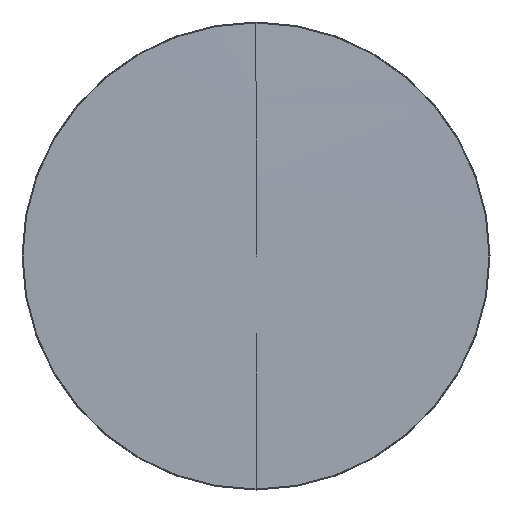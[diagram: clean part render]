
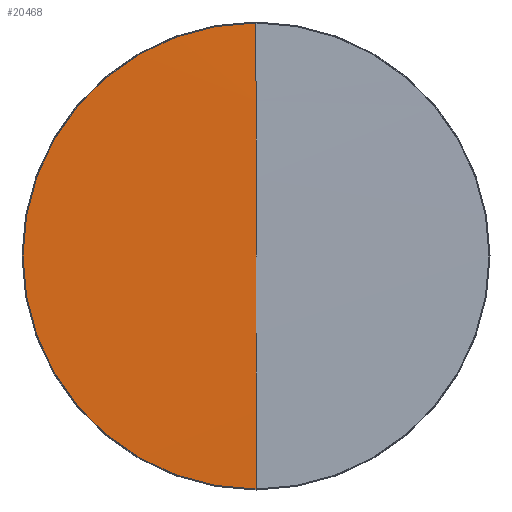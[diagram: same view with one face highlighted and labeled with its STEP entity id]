
A CAD part, front view. The second image highlights one B-rep face of the part: STEP entity #20468.
In plain terms, the highlighted spherical face has radius 12000 mm.
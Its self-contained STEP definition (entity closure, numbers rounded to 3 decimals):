
#20364=CARTESIAN_POINT('',(0.,-52.791,0.));
#20365=DIRECTION('',(0.,1.,0.));
#20366=DIRECTION('',(0.,0.,-1.));
#20367=AXIS2_PLACEMENT_3D('',#20364,#20365,#20366);
#20369=CARTESIAN_POINT('',(0.,11946.7,0.));
#20370=DIRECTION('',(1.,0.,0.));
#20371=DIRECTION('',(0.,-1.,0.009));
#20372=AXIS2_PLACEMENT_3D('',#20369,#20370,#20371);
#20374=CARTESIAN_POINT('',(0.,11946.7,0.));
#20375=DIRECTION('',(-1.,0.,0.));
#20376=DIRECTION('',(0.,-1.,-0.009));
#20377=AXIS2_PLACEMENT_3D('',#20374,#20375,#20376);
#20392=CARTESIAN_POINT('',(0.,-52.791,
-110.523));
#20393=CARTESIAN_POINT('',(0.,-52.791,
110.523));
#20394=VERTEX_POINT('',#20392);
#20395=VERTEX_POINT('',#20393);
#20396=CARTESIAN_POINT('',(0.,-53.3,0.));
#20397=VERTEX_POINT('',#20396);
#20456=CARTESIAN_POINT('',(0.,11946.7,0.));
#20457=DIRECTION('',(0.,-1.,0.));
#20458=DIRECTION('',(0.,0.,1.));
#20459=AXIS2_PLACEMENT_3D('',#20456,#20457,#20458);
#20460=SPHERICAL_SURFACE('',#20459,12000.);
#20461=ORIENTED_EDGE('',*,*,#20437,.T.);
#20463=ORIENTED_EDGE('',*,*,#20462,.T.);
#20465=ORIENTED_EDGE('',*,*,#20464,.F.);
#20466=EDGE_LOOP('',(#20461,#20463,#20465));
#20467=FACE_OUTER_BOUND('',#20466,.F.);
#20468=ADVANCED_FACE('',(#20467),#20460,.T.);
#20368=CIRCLE('',#20367,110.523);
#20373=CIRCLE('',#20372,12000.);
#20378=CIRCLE('',#20377,12000.);
#20437=EDGE_CURVE('',#20394,#20395,#20368,.T.);
#20462=EDGE_CURVE('',#20395,#20397,#20373,.T.);
#20464=EDGE_CURVE('',#20394,#20397,#20378,.T.);
